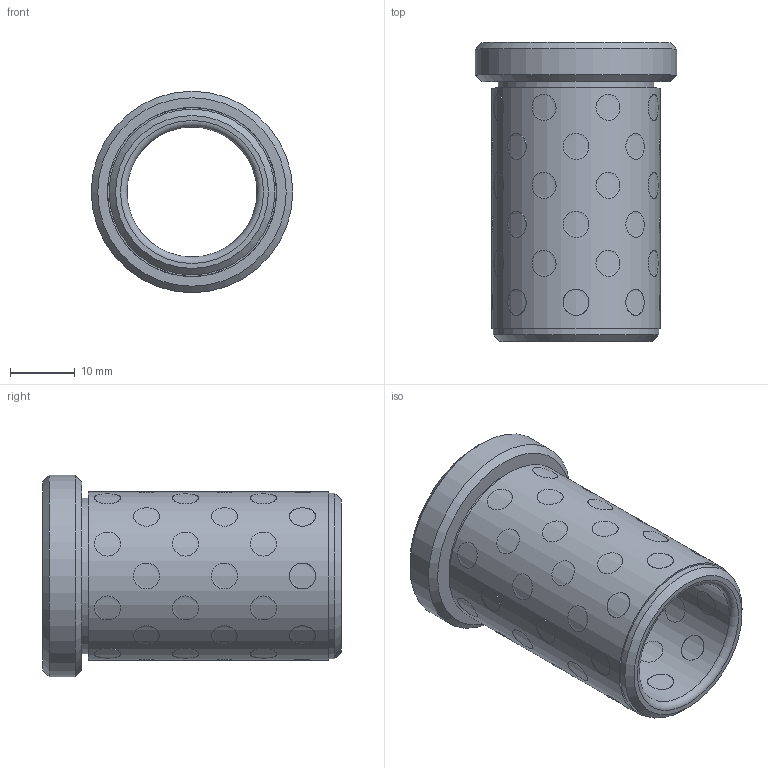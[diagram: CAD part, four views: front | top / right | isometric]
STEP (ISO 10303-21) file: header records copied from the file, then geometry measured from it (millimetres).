
FILE_DESCRIPTION( ( 'STEP AP203' ), '1' );
FILE_NAME( 'D:/Cuma/D30.05/D30.05_2046.step', '2003-01-20T18:34:38', ( ' ' ), ( ' ' ), 'XStep 1.0', ' ', ' ' );
FILE_SCHEMA( ( 'CONFIG_CONTROL_DESIGN' ) );
Length unit declared in the file: metre
Products named in the file (65): 1; 2; 3; 4; 5; 6; 7; 8; 9; 10; 11; 12; 13; 14; 15; 16; 17; 18; 19; 20; 21; 22; 23; 24; 25; 26; 27; 28; 29; 30; 31; 32; 33; 34; 35; 36; 37; 38; 39; 40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
Bounding box: 31 x 46 x 31 mm (x, y, z)
Volume: 13413.1 mm3; surface area: 11573.7 mm2
Topology: 65 solids, 65 shells, 207 faces, 217 edges, 143 vertices
Faces by surface type: cylinder 197, plane 5, cone 3, torus 2
Full cylindrical faces by diameter (mm): 4 x64, 20 x1, 24 x1, 25.5 x1, 26 x1, 31 x1
Entity records: 12897 total; most frequent: CARTESIAN_POINT 7470, DIRECTION 574, CC_DESIGN_PERSON_AND_ORGANIZATION_ASSIGNMENT 325, AXIS2_PLACEMENT_3D 287, EDGE_LOOP 286, ORIENTED_EDGE 286, FACE_OUTER_BOUND 278, PERSON_AND_ORGANIZATION_ROLE 260
